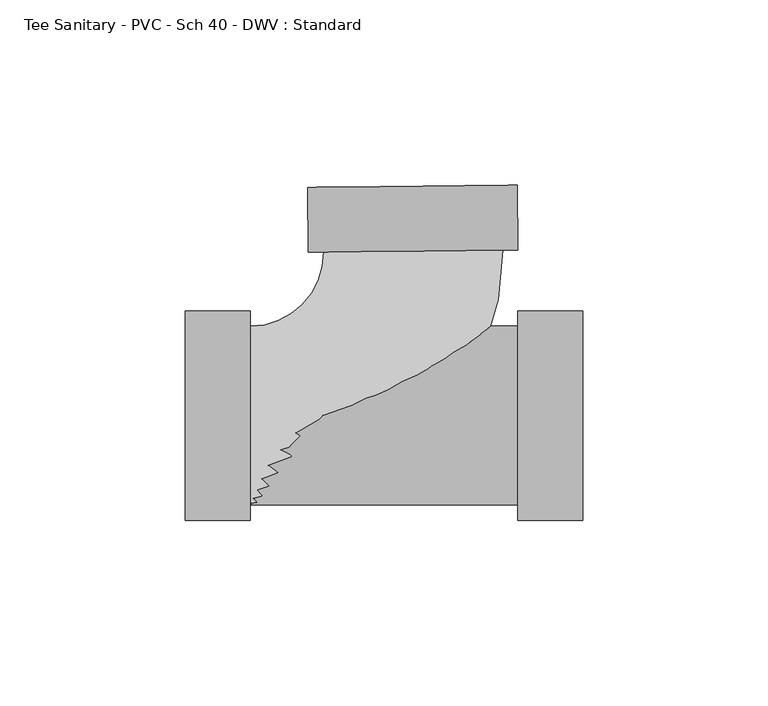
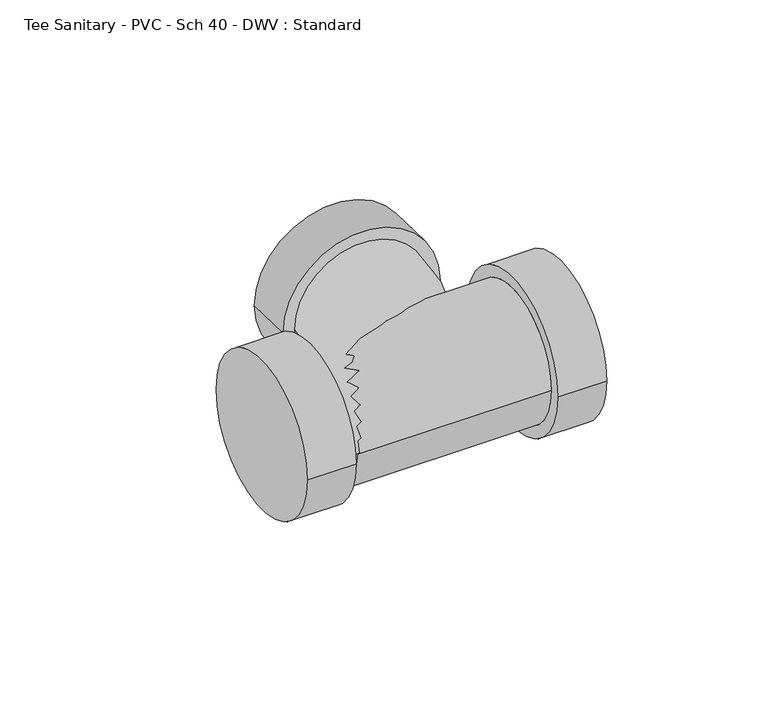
"""IFC4 building model written with IfcOpenShell, lengths in millimetres: pipe fitting geometry, Tee Sanitary - PVC - Sch 40 - DWV : Standard."""

from ifc_helpers import new_model, si_unit, point, frame, origin, place, context, project, spatial, circle_curve, ellipse_curve, trimmed, source, transform, mapped, element, save
from ifc_brep_helpers import plane_surface, cylinder_surface, revolved_surface, advanced_brep


def tee_sanitary_pvc_sch_40_dwv_standard_31acfb72(model_context):
    return source(origin(), model_context, "Body", "AdvancedBrep", [
        advanced_brep(
        [(-44.45, 24.13, 0.0), (-44.45, -24.13, 0.0), (23.6634939, 44.7000946, 0.0), (-24.5938632, 44.195037, 0.0), (27.6335483, 62.1924005, 0.0), (-28.929154, 61.6004198, 0.0), (27.8161665, 44.7435561, 0.0), (-28.7465358, 44.1515754, 0.0)],
        [
            (0, 1, circle_curve(frame((-44.45, 0.0, 0.0), z_axis=(-1.0, 0.0, 0.0), x_axis=(0.0, -1.0, 0.0)), 24.13)),
            (1, 0, circle_curve(frame((-44.45, 0.0, 0.0), z_axis=(-1.0, 0.0, 0.0), x_axis=(0.0, -1.0, 0.0)), 24.13)),
            (1, 2, circle_curve(frame((-44.45, 43.9872243, 0.0), z_axis=(0.0, 0.0, 1.0), x_axis=(0.0, -1.0, 0.0)), 68.1172243)),
            (2, 3, circle_curve(frame((-0.4651846, 44.4475658, 0.0), z_axis=(0.01046534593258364, -0.9999452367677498, 0.0), x_axis=(0.9999452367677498, 0.01046534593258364, 0.0)), 24.13)),
            (3, 0, circle_curve(frame((-44.45, 43.9872243, 0.0), z_axis=(0.0, 0.0, -1.0), x_axis=(0.0, -1.0, 0.0)), 19.8572243)),
            (3, 2, circle_curve(frame((-0.4651846, 44.4475658, 0.0), z_axis=(0.010465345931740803, -0.9999452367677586, 0.0), x_axis=(0.9999452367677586, 0.010465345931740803, 0.0)), 24.13)),
            (4, 5, circle_curve(frame((-0.6478028, 61.8964102, 0.0), z_axis=(-0.010465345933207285, 0.9999452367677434, 0.0), x_axis=(-0.9999452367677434, -0.010465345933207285, 0.0)), 28.2829)),
            (5, 4, circle_curve(frame((-0.6478028, 61.8964102, 0.0), z_axis=(-0.010465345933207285, 0.9999452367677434, 0.0), x_axis=(-0.9999452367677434, -0.010465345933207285, 0.0)), 28.2829)),
            (6, 7, circle_curve(frame((-0.4651846, 44.4475658, 0.0), z_axis=(0.010465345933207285, -0.9999452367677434, 0.0), x_axis=(-0.9999452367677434, -0.010465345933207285, 0.0)), 28.2829)),
            (7, 6, circle_curve(frame((-0.4651846, 44.4475658, 0.0), z_axis=(0.010465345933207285, -0.9999452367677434, 0.0), x_axis=(-0.9999452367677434, -0.010465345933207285, 0.0)), 28.2829)),
            (5, 7),
            (6, 4),
        ],
        [
            plane_surface(frame((-44.45, 0.0, 0.0), z_axis=(-1.0, 0.0, 0.0), x_axis=(0.0, 0.0, 1.0))),
            revolved_surface(trimmed(ellipse_curve(frame((-44.45, 0.0, 0.0), z_axis=(1.0, 0.0, 0.0), x_axis=(0.0, -1.0, 0.0)), 24.13, 24.13), [point((-44.45, 24.13, 0.0))], [point((-44.45, -24.13, 0.0))], True, "CARTESIAN"), (-44.45, 43.9872243, 0.0), (0.0, 0.0, -1.0)),
            revolved_surface(trimmed(ellipse_curve(frame((-44.45, 0.0, 0.0), z_axis=(1.0, 0.0, 0.0), x_axis=(0.0, -1.0, 0.0)), 24.13, 24.13), [point((-44.45, -24.13, 0.0))], [point((-44.45, 24.13, 0.0))], True, "CARTESIAN"), (-44.45, 43.9872243, 0.0), (0.0, 0.0, -1.0)),
            plane_surface(frame((-0.6478028, 61.8964102, 0.0), z_axis=(-0.010465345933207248, 0.9999452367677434, 0.0), x_axis=(0.0, 0.0, 1.0))),
            plane_surface(frame((-0.4651846, 44.4475658, 0.0), z_axis=(0.010465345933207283, -0.9999452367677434, 0.0), x_axis=(0.0, 0.0, 1.0))),
            cylinder_surface(frame((-0.6478028, 61.8964102, 0.0), z_axis=(-0.010465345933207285, 0.9999452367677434, 0.0), x_axis=(-0.9999452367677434, -0.010465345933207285, 0.0)), 28.2829),
        ],
        [
            (0, [[1, 2]]),
            (1, [[3, 4, 5, -2]]),
            (2, [[-5, 6, -3, -1]]),
            (3, [[7, 8]]),
            (4, [[9, 10], [-6, -4]]),
            (5, [[11, -9, 12, -8]]),
            (5, [[-12, -10, -11, -7]]),
        ],
    ),
        advanced_brep(
        [(-44.45, 24.13, 0.0), (-44.45, -24.13, 0.0), (27.8161665, -24.13, 0.0), (27.8161665, 24.13, 0.0), (27.8161665, 28.2829, 0.0), (27.8161665, -28.2829, 0.0), (45.2659665, 28.2829, 0.0), (45.2659665, -28.2829, 0.0), (-61.8998, 28.2829, 0.0), (-61.8998, -28.2829, 0.0), (-44.45, 28.2829, 0.0), (-44.45, -28.2829, 0.0)],
        [
            (0, 1, circle_curve(frame((-44.45, 0.0, 0.0), z_axis=(1.0, 0.0, 0.0), x_axis=(0.0, -1.0, 0.0)), 24.13)),
            (1, 2),
            (2, 3, circle_curve(frame((27.8161665, 0.0, 0.0), z_axis=(-1.0, 0.0, 0.0), x_axis=(0.0, -1.0, 0.0)), 24.13)),
            (3, 0),
            (3, 2, circle_curve(frame((27.8161665, 0.0, 0.0), z_axis=(-1.0, 0.0, 0.0), x_axis=(0.0, -1.0, 0.0)), 24.13)),
            (1, 0, circle_curve(frame((-44.45, 0.0, 0.0), z_axis=(1.0, 0.0, 0.0), x_axis=(0.0, -1.0, 0.0)), 24.13)),
            (4, 5, circle_curve(frame((27.8161665, 0.0, 0.0), z_axis=(-1.0, 0.0, 0.0), x_axis=(0.0, -1.0, 0.0)), 28.2829)),
            (5, 4, circle_curve(frame((27.8161665, 0.0, 0.0), z_axis=(-1.0, 0.0, 0.0), x_axis=(0.0, -1.0, 0.0)), 28.2829)),
            (6, 7, circle_curve(frame((45.2659665, 0.0, 0.0), z_axis=(1.0, 0.0, 0.0), x_axis=(0.0, -1.0, 0.0)), 28.2829)),
            (7, 6, circle_curve(frame((45.2659665, 0.0, 0.0), z_axis=(1.0, 0.0, 0.0), x_axis=(0.0, -1.0, 0.0)), 28.2829)),
            (5, 7),
            (6, 4),
            (8, 9, circle_curve(frame((-61.8998, 0.0, 0.0), z_axis=(-1.0, 0.0, 0.0), x_axis=(0.0, -1.0, 0.0)), 28.2829)),
            (9, 8, circle_curve(frame((-61.8998, 0.0, 0.0), z_axis=(-1.0, 0.0, 0.0), x_axis=(0.0, -1.0, 0.0)), 28.2829)),
            (10, 11, circle_curve(frame((-44.45, 0.0, 0.0), z_axis=(1.0, 0.0, 0.0), x_axis=(0.0, -1.0, 0.0)), 28.2829)),
            (11, 10, circle_curve(frame((-44.45, 0.0, 0.0), z_axis=(1.0, 0.0, 0.0), x_axis=(0.0, -1.0, 0.0)), 28.2829)),
            (9, 11),
            (10, 8),
        ],
        [
            cylinder_surface(frame((-44.45, 0.0, 0.0), z_axis=(-1.0, 0.0, 0.0), x_axis=(0.0, -1.0, 0.0)), 24.13),
            plane_surface(frame((27.8161665, 0.0, 0.0), z_axis=(-1.0, 0.0, 0.0), x_axis=(0.0, 0.0, 1.0))),
            plane_surface(frame((45.2659665, 0.0, 0.0), z_axis=(1.0, 0.0, 0.0), x_axis=(0.0, 0.0, 1.0))),
            cylinder_surface(frame((27.8161665, 0.0, 0.0), z_axis=(-1.0, 0.0, 0.0), x_axis=(0.0, -1.0, 0.0)), 28.2829),
            plane_surface(frame((-61.8998, 0.0, 0.0), z_axis=(-1.0, 0.0, 0.0), x_axis=(0.0, 0.0, 1.0))),
            plane_surface(frame((-44.45, 0.0, 0.0), z_axis=(1.0, 0.0, 0.0), x_axis=(0.0, 0.0, 1.0))),
            cylinder_surface(frame((-61.8998, 0.0, 0.0), z_axis=(-1.0, 0.0, 0.0), x_axis=(0.0, -1.0, 0.0)), 28.2829),
        ],
        [
            (0, [[1, 2, 3, 4]]),
            (0, [[5, -2, 6, -4]]),
            (1, [[7, 8], [-5, -3]]),
            (2, [[9, 10]]),
            (3, [[11, -9, 12, -8]]),
            (3, [[-12, -10, -11, -7]]),
            (4, [[13, 14]]),
            (5, [[15, 16], [-6, -1]]),
            (6, [[17, -15, 18, -14]]),
            (6, [[-18, -16, -17, -13]]),
        ],
    ),
    ])


if __name__ == "__main__":
    model = new_model("IFC4")
    model_context = context("Model", 3, world=origin())
    ifc_project = project(units=[si_unit("LENGTHUNIT", "METRE", prefix="MILLI")], contexts=[model_context])
    site = spatial("IfcSite", under=ifc_project)
    building = spatial("IfcBuilding", under=site)
    placement = place(None, origin())
    tee_sanitary_pvc_sch_40_dwv_standard_shape = tee_sanitary_pvc_sch_40_dwv_standard_31acfb72(model_context)
    element("IfcPipeFitting", 1, ObjectType="Tee Sanitary - PVC - Sch 40 - DWV : Standard", at=placement, inside=building, context=model_context, shape_type="MappedRepresentation", body=[
        mapped(tee_sanitary_pvc_sch_40_dwv_standard_shape, transform((0.0, 0.0, 0.0), x_axis=(1.0, 0.0, 0.0), y_axis=(0.0, 1.0, 0.0), z_axis=(0.0, 0.0, 1.0))),
    ])
    save(model, "model.ifc")
